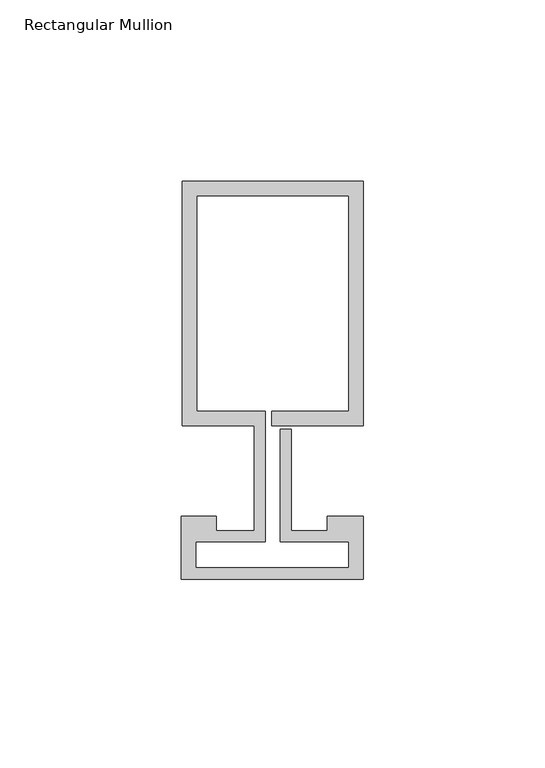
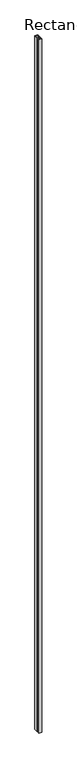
"""IFC4 building model written with IfcOpenShell, lengths in millimetres: member geometry, Rectangular Mullion : Reynaers_CW-50_Mullion-Transom_Horizontal_67.4mm_Facecap-02B."""

from ifc_helpers import new_model, si_unit, frame, origin, place, context, project, spatial, polyline, outline, extrude, source, transform, mapped, element, save


def rectangular_mullion_d05109a3(model_context):
    return source(origin(), model_context, "Body", "SweptSolid", [
        extrude(outline(polyline([(-24.8004059, 79.9), (25.1995941, 79.9), (25.1995941, 12.5), (0.0, 12.5), (0.0, 16.5), (21.1995941, 16.5), (21.1995941, 75.9), (-20.8004059, 75.9), (-20.8004059, 16.5), (-1.9004059, 16.5), (-1.9004059, -19.5), (-20.994845, -19.5), (-20.994845, -26.7191338), (21.1995941, -26.7191338), (21.1995941, -19.5), (2.2995941, -19.5), (2.2995941, 11.5), (5.2995941, 11.5), (5.2995941, -16.5), (15.2996495, -16.5), (15.2996495, -12.5), (25.1995941, -12.5), (25.1995941, -29.8), (-24.994845, -29.8), (-24.994845, -12.5), (-15.2996495, -12.5), (-15.2996495, -16.5), (-4.9004059, -16.5), (-4.9004059, 12.5), (-24.8004059, 12.5), (-24.8004059, 79.9)])), frame((0.0, 0.0, -12000.0), z_axis=(0.0, 0.0, 1.0), x_axis=(1.0, 0.0, 0.0)), (0.0, 0.0, 1.0), 12000.0),
    ])


if __name__ == "__main__":
    model = new_model("IFC4")
    model_context = context("Model", 3, world=origin())
    ifc_project = project(units=[si_unit("LENGTHUNIT", "METRE", prefix="MILLI")], contexts=[model_context])
    site = spatial("IfcSite", under=ifc_project)
    building = spatial("IfcBuilding", under=site)
    placement = place(None, origin())
    rectangular_mullion_shape = rectangular_mullion_d05109a3(model_context)
    element("IfcMember", 1, ObjectType="Rectangular Mullion : Reynaers_CW-50_Mullion-Transom_Horizontal_67.4mm_Facecap-02B", at=placement, inside=building, context=model_context, shape_type="MappedRepresentation", body=[
        mapped(rectangular_mullion_shape, transform((0.0, 0.0, 0.0), x_axis=(1.0, 0.0, 0.0), y_axis=(0.0, 1.0, 0.0), z_axis=(0.0, 0.0, 1.0))),
    ])
    save(model, "model.ifc")
